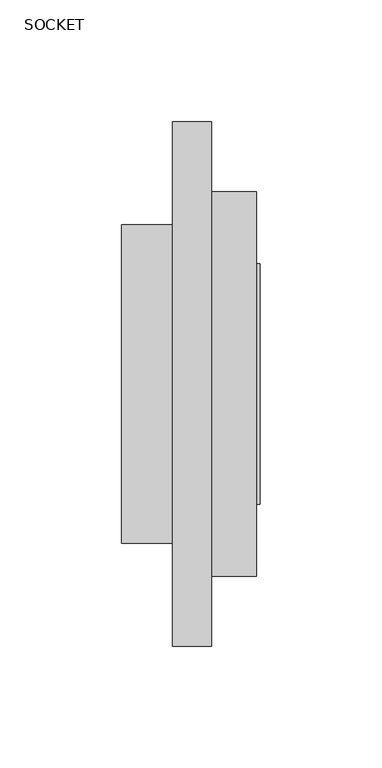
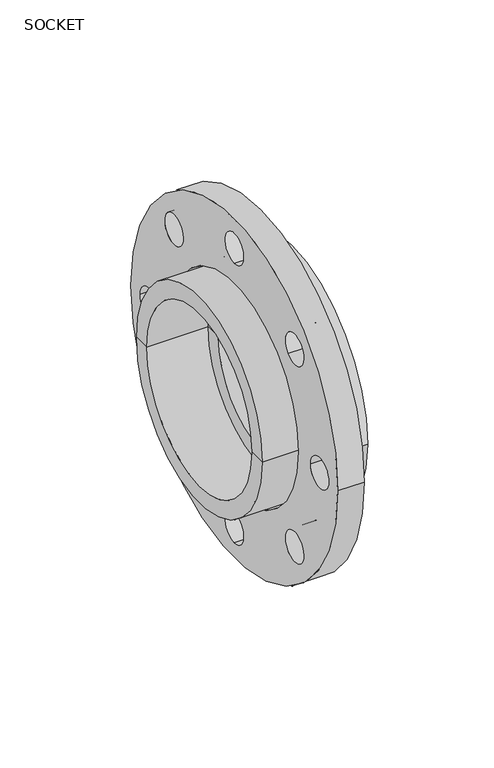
"""IFC4 building model written with IfcOpenShell, lengths in millimetres: valve geometry, Aquatherm - Flange Adapter Socket : SOCKET."""

from ifc_helpers import new_model, si_unit, point, frame, frame_2d, origin, origin_2d, place, context, project, spatial, polyline, circle_curve, trimmed, segment, composite_curve, outline, extrude, source, transform, mapped, element, save
from ifc_brep_helpers import plane_surface, cylinder_surface, revolved_surface, advanced_brep


def socket_70a2e3ce(model_context):
    return source(origin(), model_context, "Body", "SolidModel", [
        extrude(outline(composite_curve([segment(trimmed(circle_curve(origin_2d(), 107.95), [point((-107.95, 0.0))], [point((107.95, 0.0))], False, "CARTESIAN"), True, "CONTINUOUS"), segment(trimmed(circle_curve(origin_2d(), 107.95), [point((107.95, 0.0))], [point((-107.95, 0.0))], False, "CARTESIAN"), True, "CONTINUOUS")], self_intersect=False), holes=[composite_curve([segment(trimmed(circle_curve(origin_2d(), 66.675), [point((-66.675, 0.0))], [point((66.675, 0.0))], True, "CARTESIAN"), True, "CONTINUOUS"), segment(trimmed(circle_curve(origin_2d(), 66.675), [point((66.675, 0.0))], [point((-66.675, 0.0))], True, "CARTESIAN"), True, "CONTINUOUS")], self_intersect=False), composite_curve([segment(trimmed(circle_curve(frame_2d((88.9, 0.0)), 9.525), [point((79.375, 0.0))], [point((98.425, 0.0))], True, "CARTESIAN"), True, "CONTINUOUS"), segment(trimmed(circle_curve(frame_2d((88.9, 0.0)), 9.525), [point((98.425, 0.0))], [point((79.375, 0.0))], True, "CARTESIAN"), True, "CONTINUOUS")], self_intersect=False), composite_curve([segment(trimmed(circle_curve(frame_2d((62.8617928, -62.8617928)), 9.525), [point((56.1266008, -56.1266008))], [point((69.5969849, -69.5969849))], True, "CARTESIAN"), True, "CONTINUOUS"), segment(trimmed(circle_curve(frame_2d((62.8617928, -62.8617928)), 9.525), [point((69.5969849, -69.5969849))], [point((56.1266008, -56.1266008))], True, "CARTESIAN"), True, "CONTINUOUS")], self_intersect=False), composite_curve([segment(trimmed(circle_curve(frame_2d((62.8617928, 62.8617928)), 9.525), [point((56.1266008, 56.1266008))], [point((69.5969849, 69.5969849))], True, "CARTESIAN"), True, "CONTINUOUS"), segment(trimmed(circle_curve(frame_2d((62.8617928, 62.8617928)), 9.525), [point((69.5969849, 69.5969849))], [point((56.1266008, 56.1266008))], True, "CARTESIAN"), True, "CONTINUOUS")], self_intersect=False), composite_curve([segment(trimmed(circle_curve(frame_2d((0.0, 88.9)), 9.525), [point((0.0, 79.375))], [point((0.0, 98.425))], True, "CARTESIAN"), True, "CONTINUOUS"), segment(trimmed(circle_curve(frame_2d((0.0, 88.9)), 9.525), [point((0.0, 98.425))], [point((0.0, 79.375))], True, "CARTESIAN"), True, "CONTINUOUS")], self_intersect=False), composite_curve([segment(trimmed(circle_curve(frame_2d((-62.8617928, 62.8617928)), 9.525), [point((-56.1266008, 56.1266008))], [point((-69.5969849, 69.5969849))], True, "CARTESIAN"), True, "CONTINUOUS"), segment(trimmed(circle_curve(frame_2d((-62.8617928, 62.8617928)), 9.525), [point((-69.5969849, 69.5969849))], [point((-56.1266008, 56.1266008))], True, "CARTESIAN"), True, "CONTINUOUS")], self_intersect=False), composite_curve([segment(trimmed(circle_curve(frame_2d((-88.9, 0.0)), 9.525), [point((-79.375, 0.0))], [point((-98.425, 0.0))], True, "CARTESIAN"), True, "CONTINUOUS"), segment(trimmed(circle_curve(frame_2d((-88.9, 0.0)), 9.525), [point((-98.425, 0.0))], [point((-79.375, 0.0))], True, "CARTESIAN"), True, "CONTINUOUS")], self_intersect=False), composite_curve([segment(trimmed(circle_curve(frame_2d((-62.8617928, -62.8617928)), 9.525), [point((-56.1266008, -56.1266008))], [point((-69.5969849, -69.5969849))], True, "CARTESIAN"), True, "CONTINUOUS"), segment(trimmed(circle_curve(frame_2d((-62.8617928, -62.8617928)), 9.525), [point((-69.5969849, -69.5969849))], [point((-56.1266008, -56.1266008))], True, "CARTESIAN"), True, "CONTINUOUS")], self_intersect=False), composite_curve([segment(trimmed(circle_curve(frame_2d((0.0, -88.9)), 9.525), [point((0.0, -79.375))], [point((0.0, -98.425))], True, "CARTESIAN"), True, "CONTINUOUS"), segment(trimmed(circle_curve(frame_2d((0.0, -88.9)), 9.525), [point((0.0, -98.425))], [point((0.0, -79.375))], True, "CARTESIAN"), True, "CONTINUOUS")], self_intersect=False)]), frame((-16.002, 0.0, 0.0), z_axis=(1.0, 0.0, 0.0), x_axis=(0.0, 1.0, 0.0)), (0.0, 0.0, 1.0), 16.002),
        advanced_brep(
        [(20.066, 44.45, 0.0), (20.066, -44.45, 0.0), (20.066, -49.53, 0.0), (20.066, 49.53, 0.0), (0.0, 44.45, 0.0), (0.0, -44.45, 0.0), (0.0, 54.991, 0.0), (0.0, -54.991, 0.0), (-37.084, 54.991, 0.0), (-37.084, -54.991, 0.0), (-37.084, 65.532, 0.0), (-37.084, -65.532, 0.0), (0.0, 65.532, 0.0), (0.0, -65.532, 0.0), (0.0, 78.994, 0.0), (0.0, -78.994, 0.0), (18.542, 78.994, 0.0), (18.542, -78.994, 0.0), (18.542, 49.53, 0.0), (18.542, -49.53, 0.0)],
        [
            (0, 1, circle_curve(frame((20.066, 0.0, 0.0), z_axis=(-1.0, 0.0, 0.0), x_axis=(0.0, -1.0, 0.0)), 44.45)),
            (1, 2),
            (2, 3, circle_curve(frame((20.066, 0.0, 0.0), z_axis=(1.0, 0.0, 0.0), x_axis=(0.0, -1.0, 0.0)), 49.53)),
            (3, 0),
            (1, 0, circle_curve(frame((20.066, 0.0, 0.0), z_axis=(-1.0, 0.0, 0.0), x_axis=(0.0, -1.0, 0.0)), 44.45)),
            (3, 2, circle_curve(frame((20.066, 0.0, 0.0), z_axis=(1.0, 0.0, 0.0), x_axis=(0.0, -1.0, 0.0)), 49.53)),
            (4, 5, circle_curve(frame((0.0, 0.0, 0.0), z_axis=(-1.0, 0.0, 0.0), x_axis=(0.0, -1.0, 0.0)), 44.45)),
            (5, 1),
            (0, 4),
            (5, 4, circle_curve(frame((0.0, 0.0, 0.0), z_axis=(-1.0, 0.0, 0.0), x_axis=(0.0, -1.0, 0.0)), 44.45)),
            (6, 7, circle_curve(frame((0.0, 0.0, 0.0), z_axis=(-1.0, 0.0, 0.0), x_axis=(0.0, -1.0, 0.0)), 54.991)),
            (7, 5),
            (4, 6),
            (7, 6, circle_curve(frame((0.0, 0.0, 0.0), z_axis=(-1.0, 0.0, 0.0), x_axis=(0.0, -1.0, 0.0)), 54.991)),
            (8, 9, circle_curve(frame((-37.084, 0.0, 0.0), z_axis=(-1.0, 0.0, 0.0), x_axis=(0.0, -1.0, 0.0)), 54.991)),
            (9, 7),
            (6, 8),
            (9, 8, circle_curve(frame((-37.084, 0.0, 0.0), z_axis=(-1.0, 0.0, 0.0), x_axis=(0.0, -1.0, 0.0)), 54.991)),
            (10, 11, circle_curve(frame((-37.084, 0.0, 0.0), z_axis=(-1.0, 0.0, 0.0), x_axis=(0.0, -1.0, 0.0)), 65.532)),
            (11, 9),
            (8, 10),
            (11, 10, circle_curve(frame((-37.084, 0.0, 0.0), z_axis=(-1.0, 0.0, 0.0), x_axis=(0.0, -1.0, 0.0)), 65.532)),
            (12, 13, circle_curve(frame((0.0, 0.0, 0.0), z_axis=(-1.0, 0.0, 0.0), x_axis=(0.0, -1.0, 0.0)), 65.532)),
            (13, 11),
            (10, 12),
            (13, 12, circle_curve(frame((0.0, 0.0, 0.0), z_axis=(-1.0, 0.0, 0.0), x_axis=(0.0, -1.0, 0.0)), 65.532)),
            (14, 15, circle_curve(frame((0.0, 0.0, 0.0), z_axis=(-1.0, 0.0, 0.0), x_axis=(0.0, -1.0, 0.0)), 78.994)),
            (15, 13),
            (12, 14),
            (15, 14, circle_curve(frame((0.0, 0.0, 0.0), z_axis=(-1.0, 0.0, 0.0), x_axis=(0.0, -1.0, 0.0)), 78.994)),
            (16, 17, circle_curve(frame((18.542, 0.0, 0.0), z_axis=(-1.0, 0.0, 0.0), x_axis=(0.0, -1.0, 0.0)), 78.994)),
            (17, 15),
            (14, 16),
            (17, 16, circle_curve(frame((18.542, 0.0, 0.0), z_axis=(-1.0, 0.0, 0.0), x_axis=(0.0, -1.0, 0.0)), 78.994)),
            (18, 19, circle_curve(frame((18.542, 0.0, 0.0), z_axis=(-1.0, 0.0, 0.0), x_axis=(0.0, -1.0, 0.0)), 49.53)),
            (19, 17),
            (16, 18),
            (19, 18, circle_curve(frame((18.542, 0.0, 0.0), z_axis=(-1.0, 0.0, 0.0), x_axis=(0.0, -1.0, 0.0)), 49.53)),
            (2, 19),
            (18, 3),
        ],
        [
            plane_surface(frame((20.066, 0.0, 0.0), z_axis=(1.0, 0.0, 0.0), x_axis=(0.0, -1.0, 0.0))),
            revolved_surface(polyline([(20.06600000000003, -44.45, 0.0), (0.0, -44.45, 0.0)]), (1449.3611939, 0.0, 0.0), (1.0, 0.0, 0.0)),
            plane_surface(frame((0.0, 0.0, 0.0), z_axis=(-1.0, 0.0, 0.0), x_axis=(0.0, -1.0, 0.0))),
            revolved_surface(polyline([(0.0, -54.991, 0.0), (-37.08400000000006, -54.991, 0.0)]), (1449.3611939, 0.0, 0.0), (1.0, 0.0, 0.0)),
            plane_surface(frame((-37.084, 0.0, 0.0), z_axis=(-1.0, 0.0, 0.0), x_axis=(0.0, -1.0, 0.0))),
            cylinder_surface(frame((1449.3611939, 0.0, 0.0), z_axis=(1.0, 0.0, 0.0), x_axis=(0.0, -1.0, 0.0)), 65.532),
            cylinder_surface(frame((1449.3611939, 0.0, 0.0), z_axis=(1.0, 0.0, 0.0), x_axis=(0.0, -1.0, 0.0)), 78.994),
            plane_surface(frame((18.542, 0.0, 0.0), z_axis=(1.0, 0.0, 0.0), x_axis=(0.0, -1.0, 0.0))),
            cylinder_surface(frame((1449.3611939, 0.0, 0.0), z_axis=(1.0, 0.0, 0.0), x_axis=(0.0, -1.0, 0.0)), 49.53),
        ],
        [
            (0, [[1, 2, 3, 4]]),
            (0, [[5, -4, 6, -2]]),
            (1, [[7, 8, -1, 9]]),
            (1, [[10, -9, -5, -8]]),
            (2, [[11, 12, -7, 13]]),
            (2, [[14, -13, -10, -12]]),
            (3, [[15, 16, -11, 17]]),
            (3, [[18, -17, -14, -16]]),
            (4, [[19, 20, -15, 21]]),
            (4, [[22, -21, -18, -20]]),
            (5, [[23, 24, -19, 25]]),
            (5, [[26, -25, -22, -24]]),
            (2, [[27, 28, -23, 29]]),
            (2, [[30, -29, -26, -28]]),
            (6, [[31, 32, -27, 33]]),
            (6, [[34, -33, -30, -32]]),
            (7, [[35, 36, -31, 37]]),
            (7, [[38, -37, -34, -36]]),
            (8, [[-3, 39, -35, 40]]),
            (8, [[-6, -40, -38, -39]]),
        ],
    ),
    ])


if __name__ == "__main__":
    model = new_model("IFC4")
    model_context = context("Model", 3, world=origin())
    ifc_project = project(units=[si_unit("LENGTHUNIT", "METRE", prefix="MILLI")], contexts=[model_context])
    site = spatial("IfcSite", under=ifc_project)
    building = spatial("IfcBuilding", under=site)
    placement = place(None, origin())
    ifc_socket_shape = socket_70a2e3ce(model_context)
    element("IfcValve", 1, ObjectType="Aquatherm - Flange Adapter Socket : SOCKET", at=placement, inside=building, context=model_context, shape_type="MappedRepresentation", body=[
        mapped(ifc_socket_shape, transform((0.0, 0.0, 0.0), x_axis=(1.0, 0.0, 0.0), y_axis=(0.0, 1.0, 0.0), z_axis=(0.0, 0.0, 1.0))),
    ])
    save(model, "model.ifc")
